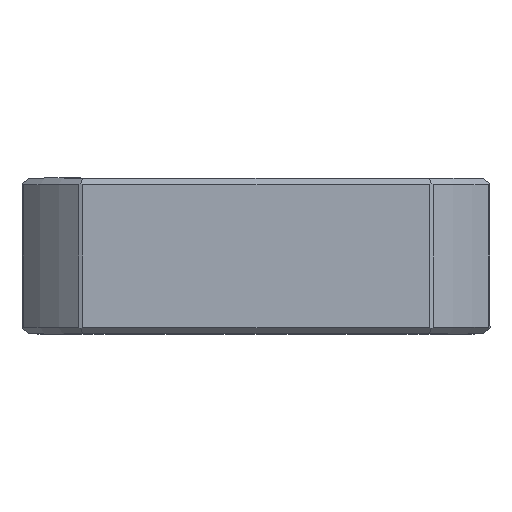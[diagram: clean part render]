
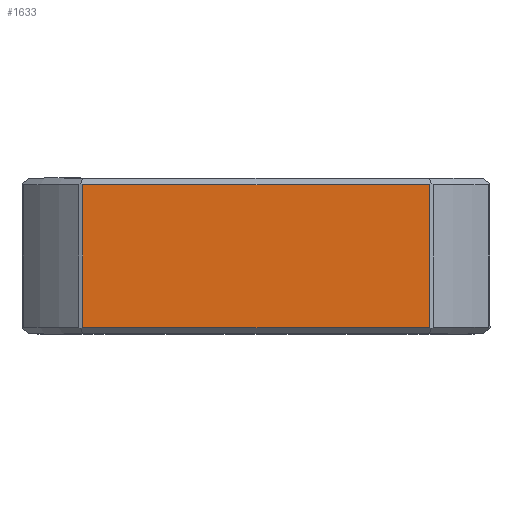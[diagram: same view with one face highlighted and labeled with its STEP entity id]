
A CAD part, left-side view. The second image highlights one B-rep face of the part: STEP entity #1633.
In plain terms, the highlighted planar face has unit normal (-1, 0, 0).
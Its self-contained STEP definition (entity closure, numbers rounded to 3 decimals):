
#1460 = VERTEX_POINT ( 'NONE', #5869 ) ;
#1462 = EDGE_CURVE ( 'NONE', #1460, #1463, #5868, .T. ) ;
#1463 = VERTEX_POINT ( 'NONE', #5864 ) ;
#1532 = EDGE_CURVE ( 'NONE', #1463, #1533, #5995, .T. ) ;
#1533 = VERTEX_POINT ( 'NONE', #5991 ) ;
#1540 = EDGE_CURVE ( 'NONE', #1533, #1541, #5980, .T. ) ;
#1541 = VERTEX_POINT ( 'NONE', #5976 ) ;
#1633 = ADVANCED_FACE ( 'NONE', ( #6143 ), #6142, .F. ) ;
#1634 = EDGE_LOOP ( 'NONE', ( #1685, #1686, #1688, #1689 ) ) ;
#1685 = ORIENTED_EDGE ( 'NONE', *, *, #1462, .F. ) ;
#1686 = ORIENTED_EDGE ( 'NONE', *, *, #1687, .T. ) ;
#1687 = EDGE_CURVE ( 'NONE', #1460, #1541, #6249, .T. ) ;
#1688 = ORIENTED_EDGE ( 'NONE', *, *, #1540, .F. ) ;
#1689 = ORIENTED_EDGE ( 'NONE', *, *, #1532, .F. ) ;
#5864 = CARTESIAN_POINT ( 'NONE',  ( -18., 13.332, 11.5 ) ) ;
#5865 = DIRECTION ( 'NONE',  ( 0., 0., 1. ) ) ;
#5866 = VECTOR ( 'NONE', #5865, 1000. ) ;
#5867 = CARTESIAN_POINT ( 'NONE',  ( -18., 13.332, 6. ) ) ;
#5868 = LINE ( 'NONE', #5867, #5866 ) ;
#5869 = CARTESIAN_POINT ( 'NONE',  ( -18., 13.332, 0.5 ) ) ;
#5976 = CARTESIAN_POINT ( 'NONE',  ( -18., -13.332, 0.5 ) ) ;
#5977 = DIRECTION ( 'NONE',  ( 0., 0., -1. ) ) ;
#5978 = VECTOR ( 'NONE', #5977, 1000. ) ;
#5979 = CARTESIAN_POINT ( 'NONE',  ( -18., -13.332, 6. ) ) ;
#5980 = LINE ( 'NONE', #5979, #5978 ) ;
#5991 = CARTESIAN_POINT ( 'NONE',  ( -18., -13.332, 11.5 ) ) ;
#5992 = DIRECTION ( 'NONE',  ( 0., -1., 0. ) ) ;
#5993 = VECTOR ( 'NONE', #5992, 1000. ) ;
#5994 = CARTESIAN_POINT ( 'NONE',  ( -18., 0., 11.5 ) ) ;
#5995 = LINE ( 'NONE', #5994, #5993 ) ;
#6138 = DIRECTION ( 'NONE',  ( 0., 1., 0. ) ) ;
#6139 = DIRECTION ( 'NONE',  ( 1., 0., 0. ) ) ;
#6140 = CARTESIAN_POINT ( 'NONE',  ( -18., -13.866, 0.28 ) ) ;
#6141 = AXIS2_PLACEMENT_3D ( 'NONE', #6140, #6139, #6138 ) ;
#6142 = PLANE ( 'NONE',  #6141 ) ;
#6143 = FACE_OUTER_BOUND ( 'NONE', #1634, .T. ) ;
#6246 = DIRECTION ( 'NONE',  ( 0., -1., 0. ) ) ;
#6247 = VECTOR ( 'NONE', #6246, 1000. ) ;
#6248 = CARTESIAN_POINT ( 'NONE',  ( -18., 0., 0.5 ) ) ;
#6249 = LINE ( 'NONE', #6248, #6247 ) ;
